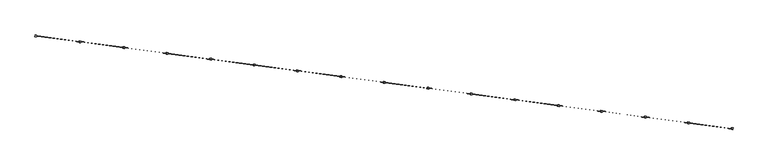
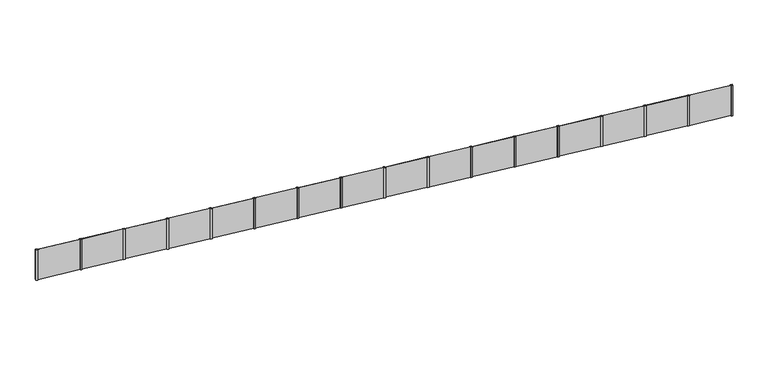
"""IFC4 building model written with IfcOpenShell, lengths in millimetres: railing geometry, REJA_PERIMETRAL_2000mm."""

from ifc_helpers import new_model, si_unit, frame, origin, place, context, project, spatial, polyline, outline, extrude, source, transform, mapped, element, save


def railing_7fe9504b(model_context):
    return source(origin(), model_context, "Body", "SweptSolid", [
        extrude(outline(polyline([(-16384.7078143, -18338.8897719), (-18862.7641446, -18008.3798268), (-18861.4421048, -17998.4676015), (-16383.3857745, -18328.9775466), (-16384.7078143, -18338.8897719)])), frame((0.0, 0.0, -900.0), z_axis=(0.0, 0.0, 1.0), x_axis=(1.0, 0.0, 0.0)), (0.0, 0.0, 1.0), 2000.0),
        extrude(outline(polyline([(-16318.7168943, -18393.0897728), (-16417.8391475, -18379.869375), (-16404.6187497, -18280.7471218), (-16305.4964965, -18293.9675196), (-16318.7168943, -18393.0897728)])), frame((0.0, 0.0, -900.0), z_axis=(0.0, 0.0, 1.0), x_axis=(1.0, 0.0, 0.0)), (0.0, 0.0, 1.0), 2000.0),
        extrude(outline(polyline([(-13861.8935393, -18675.3692931), (-16339.9498696, -18344.859348), (-16338.6278298, -18334.9471227), (-13860.5714995, -18665.4570678), (-13861.8935393, -18675.3692931)])), frame((0.0, 0.0, -900.0), z_axis=(0.0, 0.0, 1.0), x_axis=(1.0, 0.0, 0.0)), (0.0, 0.0, 1.0), 2000.0),
        extrude(outline(polyline([(-13795.9026193, -18729.569294), (-13895.0248726, -18716.3488962), (-13881.8044748, -18617.226643), (-13782.6822215, -18630.4470408), (-13795.9026193, -18729.569294)])), frame((0.0, 0.0, -900.0), z_axis=(0.0, 0.0, 1.0), x_axis=(1.0, 0.0, 0.0)), (0.0, 0.0, 1.0), 2000.0),
        extrude(outline(polyline([(-11339.0792643, -19011.8488144), (-13817.1355946, -18681.3388692), (-13815.8135548, -18671.4266439), (-11337.7572245, -19001.936589), (-11339.0792643, -19011.8488144)])), frame((0.0, 0.0, -900.0), z_axis=(0.0, 0.0, 1.0), x_axis=(1.0, 0.0, 0.0)), (0.0, 0.0, 1.0), 2000.0),
        extrude(outline(polyline([(-11273.0883444, -19066.0488152), (-11372.2105976, -19052.8284174), (-11358.9901998, -18953.7061642), (-11259.8679466, -18966.926562), (-11273.0883444, -19066.0488152)])), frame((0.0, 0.0, -900.0), z_axis=(0.0, 0.0, 1.0), x_axis=(1.0, 0.0, 0.0)), (0.0, 0.0, 1.0), 2000.0),
        extrude(outline(polyline([(-8816.2649893, -19348.3283356), (-11294.3213196, -19017.8183904), (-11292.9992799, -19007.9061651), (-8814.9429495, -19338.4161102), (-8816.2649893, -19348.3283356)])), frame((0.0, 0.0, -900.0), z_axis=(0.0, 0.0, 1.0), x_axis=(1.0, 0.0, 0.0)), (0.0, 0.0, 1.0), 2000.0),
        extrude(outline(polyline([(-8750.2740694, -19402.5283365), (-8849.3963226, -19389.3079387), (-8836.1759248, -19290.1856854), (-8737.0536716, -19303.4060832), (-8750.2740694, -19402.5283365)])), frame((0.0, 0.0, -900.0), z_axis=(0.0, 0.0, 1.0), x_axis=(1.0, 0.0, 0.0)), (0.0, 0.0, 1.0), 2000.0),
        extrude(outline(polyline([(-6293.4507144, -19684.8078568), (-8771.5070447, -19354.2979117), (-8770.1850049, -19344.3856863), (-6292.1286746, -19674.8956315), (-6293.4507144, -19684.8078568)])), frame((0.0, 0.0, -900.0), z_axis=(0.0, 0.0, 1.0), x_axis=(1.0, 0.0, 0.0)), (0.0, 0.0, 1.0), 2000.0),
        extrude(outline(polyline([(-6227.4597944, -19739.0078577), (-6326.5820476, -19725.7874599), (-6313.3616498, -19626.6652067), (-6214.2393966, -19639.8856045), (-6227.4597944, -19739.0078577)])), frame((0.0, 0.0, -900.0), z_axis=(0.0, 0.0, 1.0), x_axis=(1.0, 0.0, 0.0)), (0.0, 0.0, 1.0), 2000.0),
        extrude(outline(polyline([(-3770.6364394, -20021.287378), (-6248.6927697, -19690.7774329), (-6247.3707299, -19680.8652076), (-3769.3143996, -20011.3751527), (-3770.6364394, -20021.287378)])), frame((0.0, 0.0, -900.0), z_axis=(0.0, 0.0, 1.0), x_axis=(1.0, 0.0, 0.0)), (0.0, 0.0, 1.0), 2000.0),
        extrude(outline(polyline([(-3704.6455194, -20075.4873789), (-3803.7677727, -20062.2669811), (-3790.5473749, -19963.1447279), (-3691.4251216, -19976.3651257), (-3704.6455194, -20075.4873789)])), frame((0.0, 0.0, -900.0), z_axis=(0.0, 0.0, 1.0), x_axis=(1.0, 0.0, 0.0)), (0.0, 0.0, 1.0), 2000.0),
        extrude(outline(polyline([(-1247.8221644, -20357.7668992), (-3725.8784947, -20027.2569541), (-3724.5564549, -20017.3447288), (-1246.5001246, -20347.8546739), (-1247.8221644, -20357.7668992)])), frame((0.0, 0.0, -900.0), z_axis=(0.0, 0.0, 1.0), x_axis=(1.0, 0.0, 0.0)), (0.0, 0.0, 1.0), 2000.0),
        extrude(outline(polyline([(-1181.8312445, -20411.9669001), (-1280.9534977, -20398.7465023), (-1267.7330999, -20299.6242491), (-1168.6108467, -20312.8446469), (-1181.8312445, -20411.9669001)])), frame((0.0, 0.0, -900.0), z_axis=(0.0, 0.0, 1.0), x_axis=(1.0, 0.0, 0.0)), (0.0, 0.0, 1.0), 2000.0),
        extrude(outline(polyline([(1274.9921106, -20694.2464204), (-1203.0642197, -20363.7364753), (-1201.74218, -20353.82425), (1276.3141504, -20684.3341951), (1274.9921106, -20694.2464204)])), frame((0.0, 0.0, -900.0), z_axis=(0.0, 0.0, 1.0), x_axis=(1.0, 0.0, 0.0)), (0.0, 0.0, 1.0), 2000.0),
        extrude(outline(polyline([(1340.9830305, -20748.4464213), (1241.8607773, -20735.2260235), (1255.0811751, -20636.1037703), (1354.2034283, -20649.3241681), (1340.9830305, -20748.4464213)])), frame((0.0, 0.0, -900.0), z_axis=(0.0, 0.0, 1.0), x_axis=(1.0, 0.0, 0.0)), (0.0, 0.0, 1.0), 2000.0),
        extrude(outline(polyline([(3797.8063855, -21030.7259416), (1319.7500552, -20700.2159965), (1321.072095, -20690.3037712), (3799.1284253, -21020.8137163), (3797.8063855, -21030.7259416)])), frame((0.0, 0.0, -900.0), z_axis=(0.0, 0.0, 1.0), x_axis=(1.0, 0.0, 0.0)), (0.0, 0.0, 1.0), 2000.0),
        extrude(outline(polyline([(3863.7973055, -21084.9259425), (3764.6750523, -21071.7055447), (3777.8954501, -20972.5832915), (3877.0177033, -20985.8036893), (3863.7973055, -21084.9259425)])), frame((0.0, 0.0, -900.0), z_axis=(0.0, 0.0, 1.0), x_axis=(1.0, 0.0, 0.0)), (0.0, 0.0, 1.0), 2000.0),
        extrude(outline(polyline([(6320.6206605, -21367.2054628), (3842.5643302, -21036.6955177), (3843.88637, -21026.7832924), (6321.9427003, -21357.2932375), (6320.6206605, -21367.2054628)])), frame((0.0, 0.0, -900.0), z_axis=(0.0, 0.0, 1.0), x_axis=(1.0, 0.0, 0.0)), (0.0, 0.0, 1.0), 2000.0),
        extrude(outline(polyline([(6386.6115805, -21421.4054637), (6287.4893272, -21408.1850659), (6300.709725, -21309.0628127), (6399.8319783, -21322.2832105), (6386.6115805, -21421.4054637)])), frame((0.0, 0.0, -900.0), z_axis=(0.0, 0.0, 1.0), x_axis=(1.0, 0.0, 0.0)), (0.0, 0.0, 1.0), 2000.0),
        extrude(outline(polyline([(8843.4349355, -21703.6849841), (6365.3786052, -21373.1750389), (6366.700645, -21363.2628136), (8844.7569753, -21693.7727587), (8843.4349355, -21703.6849841)])), frame((0.0, 0.0, -900.0), z_axis=(0.0, 0.0, 1.0), x_axis=(1.0, 0.0, 0.0)), (0.0, 0.0, 1.0), 2000.0),
        extrude(outline(polyline([(8909.4258554, -21757.884985), (8810.3036022, -21744.6645871), (8823.524, -21645.5423339), (8922.6462532, -21658.7627317), (8909.4258554, -21757.884985)])), frame((0.0, 0.0, -900.0), z_axis=(0.0, 0.0, 1.0), x_axis=(1.0, 0.0, 0.0)), (0.0, 0.0, 1.0), 2000.0),
        extrude(outline(polyline([(11366.2492105, -22040.1645053), (8888.1928802, -21709.6545602), (8889.5149199, -21699.7423348), (11367.5712503, -22030.25228), (11366.2492105, -22040.1645053)])), frame((0.0, 0.0, -900.0), z_axis=(0.0, 0.0, 1.0), x_axis=(1.0, 0.0, 0.0)), (0.0, 0.0, 1.0), 2000.0),
        extrude(outline(polyline([(11432.2401304, -22094.3645062), (11333.1178772, -22081.1441084), (11346.338275, -21982.0218552), (11445.4605282, -21995.242253), (11432.2401304, -22094.3645062)])), frame((0.0, 0.0, -900.0), z_axis=(0.0, 0.0, 1.0), x_axis=(1.0, 0.0, 0.0)), (0.0, 0.0, 1.0), 2000.0),
        extrude(outline(polyline([(13889.0634854, -22376.6440265), (11411.0071551, -22046.1340814), (11412.3291949, -22036.221856), (13890.3855252, -22366.7318012), (13889.0634854, -22376.6440265)])), frame((0.0, 0.0, -900.0), z_axis=(0.0, 0.0, 1.0), x_axis=(1.0, 0.0, 0.0)), (0.0, 0.0, 1.0), 2000.0),
        extrude(outline(polyline([(13955.0544054, -22430.8440274), (13855.9321522, -22417.6236296), (13869.15255, -22318.5013764), (13968.2748032, -22331.7217742), (13955.0544054, -22430.8440274)])), frame((0.0, 0.0, -900.0), z_axis=(0.0, 0.0, 1.0), x_axis=(1.0, 0.0, 0.0)), (0.0, 0.0, 1.0), 2000.0),
        extrude(outline(polyline([(16411.8777604, -22713.1235477), (13933.8214301, -22382.6136026), (13935.1434699, -22372.7013773), (16413.1998002, -22703.2113224), (16411.8777604, -22713.1235477)])), frame((0.0, 0.0, -900.0), z_axis=(0.0, 0.0, 1.0), x_axis=(1.0, 0.0, 0.0)), (0.0, 0.0, 1.0), 2000.0),
        extrude(outline(polyline([(16477.8686804, -22767.3235486), (16378.7464271, -22754.1031508), (16391.9668249, -22654.9808976), (16491.0890782, -22668.2012954), (16477.8686804, -22767.3235486)])), frame((0.0, 0.0, -900.0), z_axis=(0.0, 0.0, 1.0), x_axis=(1.0, 0.0, 0.0)), (0.0, 0.0, 1.0), 2000.0),
        extrude(outline(polyline([(18934.6920354, -23049.6030689), (16456.6357051, -22719.0931238), (16457.9577449, -22709.1808985), (18936.0140752, -23039.6908436), (18934.6920354, -23049.6030689)])), frame((0.0, 0.0, -900.0), z_axis=(0.0, 0.0, 1.0), x_axis=(1.0, 0.0, 0.0)), (0.0, 0.0, 1.0), 2000.0),
        extrude(outline(polyline([(19000.6829553, -23103.8030698), (18901.5607021, -23090.582672), (18914.7810999, -22991.4604188), (19013.9033531, -23004.6808166), (19000.6829553, -23103.8030698)])), frame((0.0, 0.0, -900.0), z_axis=(0.0, 0.0, 1.0), x_axis=(1.0, 0.0, 0.0)), (0.0, 0.0, 1.0), 2000.0),
        extrude(outline(polyline([(21457.5063104, -23386.0825901), (18979.4499801, -23055.572645), (18980.7720198, -23045.6604197), (21458.8283502, -23376.1703648), (21457.5063104, -23386.0825901)])), frame((0.0, 0.0, -900.0), z_axis=(0.0, 0.0, 1.0), x_axis=(1.0, 0.0, 0.0)), (0.0, 0.0, 1.0), 2000.0),
        extrude(outline(polyline([(-18891.0922959, -18050.0000527), (-18990.2145491, -18036.7796549), (-18976.9941513, -17937.6574017), (-18877.8718981, -17950.8777995), (-18891.0922959, -18050.0000527)])), frame((0.0, 0.0, -900.0), z_axis=(0.0, 0.0, 1.0), x_axis=(1.0, 0.0, 0.0)), (0.0, 0.0, 1.0), 2000.0),
        extrude(outline(polyline([(21523.4972303, -23440.282591), (21424.3749771, -23427.0621932), (21437.5953749, -23327.93994), (21536.7176281, -23341.1603378), (21523.4972303, -23440.282591)])), frame((0.0, 0.0, -900.0), z_axis=(0.0, 0.0, 1.0), x_axis=(1.0, 0.0, 0.0)), (0.0, 0.0, 1.0), 2000.0),
    ])


if __name__ == "__main__":
    model = new_model("IFC4")
    model_context = context("Model", 3, world=origin())
    ifc_project = project(units=[si_unit("LENGTHUNIT", "METRE", prefix="MILLI")], contexts=[model_context])
    site = spatial("IfcSite", under=ifc_project)
    building = spatial("IfcBuilding", under=site)
    placement = place(None, origin())
    railing_shape = railing_7fe9504b(model_context)
    element("IfcRailing", 1, ObjectType="REJA_PERIMETRAL_2000mm", at=placement, inside=building, context=model_context, shape_type="MappedRepresentation", body=[
        mapped(railing_shape, transform((0.0, 0.0, 0.0), x_axis=(1.0, 0.0, 0.0), y_axis=(0.0, 1.0, 0.0), z_axis=(0.0, 0.0, 1.0))),
    ])
    save(model, "model.ifc")
